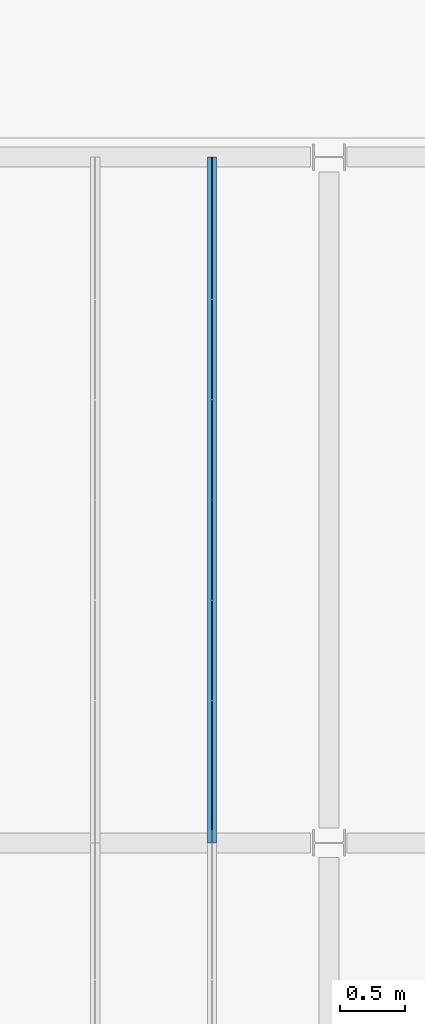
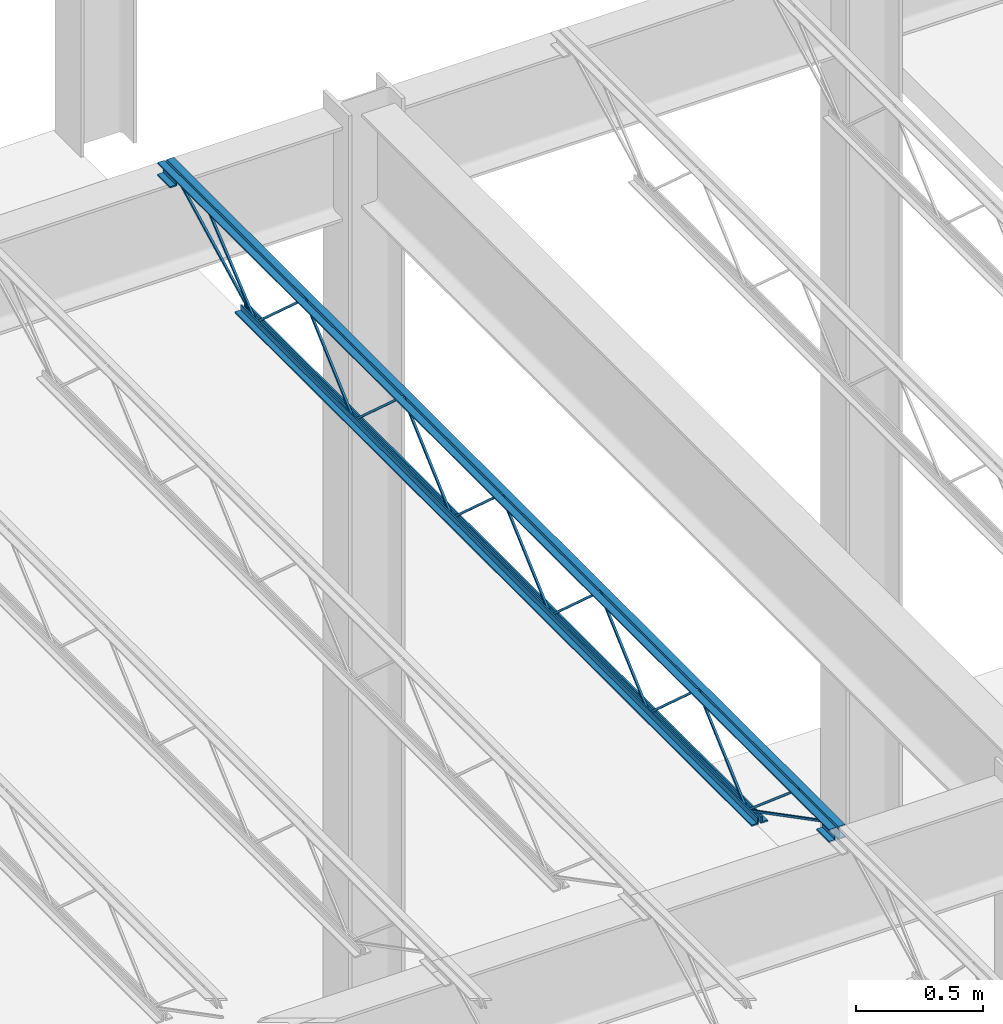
# One storey, part 80 of 119: 1 beam.
"""IFC2X3 building model written with IfcOpenShell, lengths in metres."""

from ifc_helpers import new_model, entity, si_unit, converted_unit, frame, origin, place, context, project, spatial, face_set, surface_model, element, save


model = new_model("IFC2X3")

# Units and contexts
model_context = context("Model", 3, precision=1e-09, world=origin())
plan_context = context("Plan", 3, precision=1e-09, world=origin())
ifc_project = project(units=[si_unit("LENGTHUNIT", "METRE"), si_unit("AREAUNIT", "SQUARE_METRE"), si_unit("VOLUMEUNIT", "CUBIC_METRE"), converted_unit("PLANEANGLEUNIT", "DEGREE", entity("IfcRatioMeasure", 0.01745329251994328), si_unit("PLANEANGLEUNIT", "RADIAN"), dimensions=[0, 0, 0, 0, 0, 0, 0]), si_unit("TIMEUNIT", "SECOND")], contexts=[model_context, plan_context])

# Site, building, storey
site_placement = place(None, origin())
site = spatial("IfcSite", under=ifc_project, at=site_placement, Name="Default", CompositionType="ELEMENT")
building_placement = place(site_placement, origin())
building = spatial("IfcBuilding", under=site, at=building_placement, CompositionType="ELEMENT")
storey_placement = place(building_placement, frame((0.0, 0.0, 4.570000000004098)))
storey = spatial("IfcBuildingStorey", under=building, at=storey_placement, Name="Second Floor", CompositionType="ELEMENT", Elevation=4.570000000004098)

# Beam
beam_placement = place(storey_placement, frame((-41.60246428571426, 44.78050000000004, 4.323999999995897), z_axis=(0.0, 0.0, 1.0), x_axis=(-1.0, 0.0, 0.0)))
element("IfcBeam", 1, at=beam_placement, inside=storey, Name="M_K-Series Bar Joist-Rod Web:14K1:14K1", ObjectType="M_K-Series Bar Joist-Rod Web:14K1", context=model_context, shape_type="SurfaceModel", body=[
    surface_model("IfcFaceBasedSurfaceModel", [(-0.0320000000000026, -2.266000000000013, 0.01110000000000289), (-0.0415000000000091, -2.266000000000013, 0.01110000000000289), (-0.0415000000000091, -2.266000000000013, 0.001600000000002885), (-0.0320000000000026, -2.266000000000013, 0.001600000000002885), (-0.04150000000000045, -2.264645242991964, 0.01110000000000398), (-0.0320000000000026, -2.264645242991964, 0.01110000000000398), (-0.04150000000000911, -2.26100475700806, 0.001600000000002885), (-0.04150000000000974, -1.878854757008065, 0.3449000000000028), (-0.04150000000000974, -1.876145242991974, 0.3449000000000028), (-0.04150000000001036, -1.493995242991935, 0.001600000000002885), (-0.04150000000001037, -1.489000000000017, 0.001600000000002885), (-0.04150000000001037, -1.489000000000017, 0.01110000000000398), (-0.04150000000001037, -1.490354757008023, 0.01110000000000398), (-0.04150000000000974, -1.872504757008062, 0.3544000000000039), (-0.04150000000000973, -1.882495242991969, 0.3544000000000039), (-0.03200000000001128, -2.26100475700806, 0.001600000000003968), (-0.03200000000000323, -1.878854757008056, 0.3449000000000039), (-0.03200000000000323, -1.876145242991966, 0.3449000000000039), (-0.03200000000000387, -1.493995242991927, 0.001600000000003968), (-0.03200000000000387, -1.489000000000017, 0.001600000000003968), (-0.03200000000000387, -1.489000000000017, 0.01110000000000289), (-0.03200000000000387, -1.490354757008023, 0.01110000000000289), (-0.03200000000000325, -1.872504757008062, 0.3544000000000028), (-0.03200000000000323, -1.882495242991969, 0.3544000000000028), (-0.03200000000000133, -3.04300000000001, 0.01110000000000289), (-0.04150000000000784, -3.04300000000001, 0.01110000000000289), (-0.04150000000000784, -3.04300000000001, 0.001600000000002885), (-0.03200000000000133, -3.04300000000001, 0.001600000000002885), (-0.04149999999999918, -3.041645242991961, 0.01110000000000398), (-0.03200000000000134, -3.041645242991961, 0.01110000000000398), (-0.04150000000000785, -3.038004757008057, 0.001600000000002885), (-0.04150000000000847, -2.655854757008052, 0.3449000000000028), (-0.04150000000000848, -2.653145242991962, 0.3449000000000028), (-0.0415000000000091, -2.270995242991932, 0.001600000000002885), (-0.0415000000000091, -2.266000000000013, 0.01110000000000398), (-0.0415000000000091, -2.26735475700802, 0.01110000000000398), (-0.04150000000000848, -2.649504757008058, 0.3544000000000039), (-0.04150000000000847, -2.659495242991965, 0.3544000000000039), (-0.03200000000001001, -3.038004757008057, 0.001600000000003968), (-0.03200000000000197, -2.655854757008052, 0.3449000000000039), (-0.03200000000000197, -2.653145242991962, 0.3449000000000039), (-0.0320000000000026, -2.270995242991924, 0.001600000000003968), (-0.0320000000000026, -2.266000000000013, 0.001600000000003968), (-0.0320000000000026, -2.26735475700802, 0.01110000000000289), (-0.03200000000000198, -2.649504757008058, 0.3544000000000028), (-0.03200000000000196, -2.659495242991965, 0.3544000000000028), (-0.03200000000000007, -3.820000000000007, 0.01110000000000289), (-0.04150000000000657, -3.820000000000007, 0.01110000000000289), (-0.04150000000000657, -3.820000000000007, 0.001600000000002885), (-0.03200000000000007, -3.820000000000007, 0.001600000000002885), (-0.04149999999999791, -3.818645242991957, 0.01110000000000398), (-0.03200000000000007, -3.818645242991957, 0.01110000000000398), (-0.04150000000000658, -3.815004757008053, 0.001600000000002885), (-0.0415000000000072, -3.432854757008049, 0.3449000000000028), (-0.04150000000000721, -3.430145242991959, 0.3449000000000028), (-0.04150000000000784, -3.04799524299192, 0.001600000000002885), (-0.04150000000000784, -3.043000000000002, 0.001600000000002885), (-0.04150000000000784, -3.04300000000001, 0.01110000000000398), (-0.04150000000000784, -3.044354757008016, 0.01110000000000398), (-0.04150000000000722, -3.426504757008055, 0.3544000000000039), (-0.0415000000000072, -3.436495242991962, 0.3544000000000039), (-0.03200000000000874, -3.815004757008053, 0.001600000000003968), (-0.0320000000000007, -3.432854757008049, 0.3449000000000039), (-0.0320000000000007, -3.430145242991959, 0.3449000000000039), (-0.03200000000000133, -3.04799524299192, 0.001600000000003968), (-0.03200000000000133, -3.04300000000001, 0.001600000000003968), (-0.03200000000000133, -3.043000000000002, 0.01110000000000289), (-0.03200000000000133, -3.044354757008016, 0.01110000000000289), (-0.03200000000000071, -3.426504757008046, 0.3544000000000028), (-0.0320000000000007, -3.436495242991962, 0.3544000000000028), (-0.03200000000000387, -1.489000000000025, 0.01109999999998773), (-0.04150000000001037, -1.489000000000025, 0.01109999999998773), (-0.04150000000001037, -1.489000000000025, 0.001599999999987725), (-0.03200000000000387, -1.489000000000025, 0.001599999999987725), (-0.04150000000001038, -1.487645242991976, 0.01109999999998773), (-0.03200000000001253, -1.487645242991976, 0.01109999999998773), (-0.04150000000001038, -1.484004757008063, 0.001599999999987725), (-0.04150000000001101, -1.101854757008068, 0.3448999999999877), (-0.04150000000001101, -1.099145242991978, 0.3448999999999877), (-0.04150000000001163, -0.7169952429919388, 0.001599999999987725), (-0.04150000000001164, -0.7120000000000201, 0.001599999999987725), (-0.04150000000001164, -0.7120000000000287, 0.01109999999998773), (-0.04150000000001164, -0.7133547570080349, 0.01109999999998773), (-0.04150000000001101, -1.095504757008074, 0.3543999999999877), (-0.04150000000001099, -1.10549524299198, 0.3543999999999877), (-0.03200000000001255, -1.484004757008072, 0.001599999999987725), (-0.03200000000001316, -1.101854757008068, 0.3448999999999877), (-0.03200000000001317, -1.099145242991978, 0.3448999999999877), (-0.03200000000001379, -0.7169952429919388, 0.001599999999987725), (-0.0320000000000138, -0.7120000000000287, 0.001599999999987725), (-0.03200000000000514, -0.7120000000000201, 0.01109999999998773), (-0.0320000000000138, -0.7133547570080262, 0.01109999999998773), (-0.03200000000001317, -1.095504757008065, 0.3543999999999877), (-0.03200000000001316, -1.10549524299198, 0.3543999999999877), (-0.0319999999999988, -4.597000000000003, 0.01110000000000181), (-0.0415000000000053, -4.597000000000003, 0.01110000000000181), (-0.0415000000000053, -4.597000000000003, 0.001600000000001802), (-0.0319999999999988, -4.597000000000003, 0.001600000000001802), (-0.04149999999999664, -4.595645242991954, 0.01110000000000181), (-0.0319999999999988, -4.595645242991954, 0.01110000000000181), (-0.04150000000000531, -4.592004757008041, 0.001600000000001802), (-0.04150000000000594, -4.209854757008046, 0.3449000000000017), (-0.04150000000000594, -4.207145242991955, 0.3449000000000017), (-0.04150000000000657, -3.824995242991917, 0.001600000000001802), (-0.04150000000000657, -3.819999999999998, 0.001600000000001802), (-0.04150000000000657, -3.820000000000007, 0.01110000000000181), (-0.04150000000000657, -3.821354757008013, 0.01110000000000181), (-0.04150000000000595, -4.203504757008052, 0.3544000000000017), (-0.04150000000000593, -4.213495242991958, 0.3544000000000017), (-0.03200000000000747, -4.592004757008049, 0.001600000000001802), (-0.03199999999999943, -4.209854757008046, 0.3449000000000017), (-0.03199999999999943, -4.207145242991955, 0.3449000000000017), (-0.03200000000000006, -3.824995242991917, 0.001600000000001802), (-0.03200000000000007, -3.820000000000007, 0.001600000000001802), (-0.03200000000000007, -3.819999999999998, 0.01110000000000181), (-0.03200000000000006, -3.821354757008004, 0.01110000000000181), (-0.03199999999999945, -4.203504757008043, 0.3544000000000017), (-0.03199999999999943, -4.21349524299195, 0.3544000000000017), (-0.0415000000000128, 0.0, 0.3559999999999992), (-0.07350000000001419, 0.0, 0.3559999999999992), (-0.07350000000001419, 0.0, 0.3494999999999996), (-0.04800000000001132, 0.0, 0.3494999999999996), (-0.04800000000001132, 0.0, 0.3239999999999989), (-0.0415000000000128, 0.0, 0.3239999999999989), (-0.03200000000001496, 0.0, 0.3559999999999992), (-0.03200000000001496, 0.0, 0.3239999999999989), (-0.02550000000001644, 0.0, 0.3239999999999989), (-0.02550000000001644, 0.0, 0.3494999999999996), (0.0, 0.0, 0.3494999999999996), (0.0, 0.0, 0.3559999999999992), (-0.04150000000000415, -5.309000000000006, 0.3559999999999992), (-0.07350000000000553, -5.309000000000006, 0.3559999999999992), (-0.07350000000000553, -5.309000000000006, 0.3494999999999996), (-0.04800000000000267, -5.309000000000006, 0.3494999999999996), (-0.04800000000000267, -5.309000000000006, 0.3239999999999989), (-0.04150000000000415, -5.309000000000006, 0.3239999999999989), (-0.0320000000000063, -5.309000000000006, 0.3559999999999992), (-0.0320000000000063, -5.309000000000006, 0.3239999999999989), (-0.02550000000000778, -5.309000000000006, 0.3239999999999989), (-0.02550000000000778, -5.309000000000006, 0.3494999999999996), (0.0, -5.309000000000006, 0.3494999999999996), (0.0, -5.309000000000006, 0.3559999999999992), (-0.0319999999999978, -5.20900000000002, 0.2924999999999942), (0.0, -5.20900000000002, 0.2924999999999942), (0.0, -5.20900000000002, 0.2989999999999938), (-0.02549999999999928, -5.20900000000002, 0.2989999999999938), (-0.02549999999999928, -5.20900000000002, 0.3239999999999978), (-0.0319999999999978, -5.20900000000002, 0.3239999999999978), (-0.07349999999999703, -5.20900000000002, 0.2924999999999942), (-0.04149999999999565, -5.20900000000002, 0.2924999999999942), (-0.04149999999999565, -5.20900000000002, 0.3239999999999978), (-0.04799999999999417, -5.20900000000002, 0.3239999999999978), (-0.04799999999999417, -5.20900000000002, 0.2989999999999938), (-0.07349999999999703, -5.20900000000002, 0.2989999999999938), (-0.03199999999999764, -5.309000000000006, 0.2924999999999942), (0.0, -5.309000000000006, 0.2924999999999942), (0.0, -5.309000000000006, 0.2989999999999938), (-0.02549999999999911, -5.309000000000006, 0.2989999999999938), (-0.02549999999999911, -5.309000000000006, 0.3239999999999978), (-0.03199999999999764, -5.309000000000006, 0.3239999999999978), (-0.07349999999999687, -5.309000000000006, 0.2924999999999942), (-0.04149999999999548, -5.309000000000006, 0.2924999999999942), (-0.04149999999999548, -5.309000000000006, 0.3239999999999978), (-0.04799999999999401, -5.309000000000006, 0.3239999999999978), (-0.04799999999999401, -5.309000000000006, 0.2989999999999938), (-0.07349999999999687, -5.309000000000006, 0.2989999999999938), (-0.04150000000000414, 0.0, 0.2924999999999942), (-0.04150000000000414, 0.0, 0.3239999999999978), (-0.04800000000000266, 0.0, 0.3239999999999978), (-0.04800000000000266, 0.0, 0.2989999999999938), (-0.07350000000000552, 0.0, 0.2989999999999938), (-0.07350000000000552, 0.0, 0.2924999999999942), (-0.0320000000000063, 0.0, 0.2924999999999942), (0.0, 0.0, 0.2924999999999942), (0.0, 0.0, 0.2989999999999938), (-0.02550000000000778, 0.0, 0.2989999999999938), (-0.02550000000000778, 0.0, 0.3239999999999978), (-0.0320000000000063, 0.0, 0.3239999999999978), (-0.04150000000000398, -0.1000000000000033, 0.2924999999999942), (-0.04150000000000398, -0.1000000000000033, 0.3239999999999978), (-0.0480000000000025, -0.1000000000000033, 0.3239999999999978), (-0.0480000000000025, -0.1000000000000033, 0.2989999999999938), (-0.07350000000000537, -0.1000000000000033, 0.2989999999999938), (-0.07350000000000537, -0.1000000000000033, 0.2924999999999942), (-0.03200000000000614, -0.1000000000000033, 0.2924999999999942), (0.0, -0.1000000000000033, 0.2924999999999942), (0.0, -0.1000000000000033, 0.2989999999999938), (-0.02550000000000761, -0.1000000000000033, 0.2989999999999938), (-0.02550000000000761, -0.1000000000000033, 0.3239999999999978), (-0.03200000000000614, -0.1000000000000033, 0.3239999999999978), (-0.0415000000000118, -0.6119999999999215, 0.0), (-0.0415000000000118, -0.6119999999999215, 0.03199999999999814), (-0.04800000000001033, -0.6119999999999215, 0.03199999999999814), (-0.04800000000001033, -0.6119999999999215, 0.006499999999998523), (-0.0735000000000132, -0.6119999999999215, 0.006499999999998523), (-0.0735000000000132, -0.6119999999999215, 0.0), (-0.03200000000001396, -0.6119999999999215, 0.0), (0.0, -0.6119999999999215, 0.0), (0.0, -0.6119999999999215, 0.006499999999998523), (-0.02550000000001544, -0.6119999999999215, 0.006499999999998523), (-0.02550000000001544, -0.6119999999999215, 0.03199999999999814), (-0.03200000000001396, -0.6119999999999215, 0.03199999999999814), (-0.04150000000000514, -4.696999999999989, 0.0), (-0.04150000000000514, -4.696999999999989, 0.03199999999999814), (-0.04800000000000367, -4.696999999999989, 0.03199999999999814), (-0.04800000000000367, -4.696999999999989, 0.006499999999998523), (-0.07350000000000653, -4.696999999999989, 0.006499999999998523), (-0.07350000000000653, -4.696999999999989, 0.0), (-0.0320000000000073, -4.696999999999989, 0.0), (0.0, -4.696999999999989, 0.0), (0.0, -4.696999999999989, 0.006499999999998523), (-0.02550000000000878, -4.696999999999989, 0.006499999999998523), (-0.02550000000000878, -4.696999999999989, 0.03199999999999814), (-0.0320000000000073, -4.696999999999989, 0.03199999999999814), (-0.03199999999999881, -4.594811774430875, 0.01056594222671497), (-0.0415000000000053, -4.594811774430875, 0.01056594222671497), (-0.0415000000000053, -4.599188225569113, 0.00213405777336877), (-0.03199999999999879, -4.599188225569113, 0.00213405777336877), (-0.0319999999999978, -5.207840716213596, 0.3287499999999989), (-0.03199999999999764, -5.308999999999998, 0.3287499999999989), (-0.03199999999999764, -5.308999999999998, 0.3192499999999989), (-0.03199999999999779, -5.210159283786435, 0.3192499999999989), (-0.04149999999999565, -5.210159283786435, 0.3192499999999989), (-0.0415000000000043, -5.207840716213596, 0.3287499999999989), (-0.04150000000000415, -5.308999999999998, 0.3287499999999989), (-0.04150000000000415, -5.309000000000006, 0.3192499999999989), (-0.03199999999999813, -5.005457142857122, 0.3417000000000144), (-0.04150000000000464, -5.005457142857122, 0.3417000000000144), (-0.04150000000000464, -5.005457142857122, 0.3322000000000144), (-0.03199999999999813, -5.005457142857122, 0.3322000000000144), (-0.041499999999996, -4.991034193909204, 0.3417000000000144), (-0.03199999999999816, -4.991034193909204, 0.3417000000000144), (-0.04150000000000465, -4.994480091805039, 0.3322000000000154), (-0.0415000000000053, -4.600045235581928, 0.002704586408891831), (-0.04150000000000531, -4.593954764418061, 0.009995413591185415), (-0.03200000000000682, -4.994480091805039, 0.3322000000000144), (-0.03199999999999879, -4.600045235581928, 0.002704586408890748), (-0.03199999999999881, -4.593954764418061, 0.009995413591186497), (-0.03200000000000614, -0.09781177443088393, 0.3197840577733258), (-0.03200000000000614, -0.1021882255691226, 0.328215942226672), (-0.04150000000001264, -0.1021882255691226, 0.328215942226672), (-0.04150000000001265, -0.09781177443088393, 0.3197840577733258), (-0.03200000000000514, -0.7098117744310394, 0.002134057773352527), (-0.03200000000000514, -0.714188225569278, 0.01056594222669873), (-0.04150000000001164, -0.714188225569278, 0.01056594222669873), (-0.04150000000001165, -0.7098117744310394, 0.002134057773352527), (-0.0320000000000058, -0.3059055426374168, 0.3460340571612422), (-0.0320000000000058, -0.3120658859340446, 0.35326594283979), (-0.04150000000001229, -0.3120658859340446, 0.3532659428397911), (-0.0415000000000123, -0.3059055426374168, 0.3460340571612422), (-0.03200000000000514, -0.7089198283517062, 0.002734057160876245), (-0.03200000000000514, -0.7150801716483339, 0.00996594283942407), (-0.04150000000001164, -0.7150801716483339, 0.00996594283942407), (-0.04150000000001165, -0.7089198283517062, 0.002734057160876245)], [face_set([[[0, 1, 2, 3]], [[1, 4, 5, 0]], [[2, 6, 7, 8, 9, 10, 11, 12, 13, 14, 4, 1]], [[3, 2, 6, 15]], [[0, 3, 15, 16, 17, 18, 19, 20, 21, 22, 23, 5]], [[4, 5, 23, 14]], [[15, 16, 7, 6]], [[14, 13, 22, 23]], [[16, 7, 8, 17]], [[13, 12, 21, 22]], [[17, 8, 9, 18]], [[20, 11, 10, 19]], [[12, 11, 20, 21]], [[18, 9, 10, 19]]]), face_set([[[24, 25, 26, 27]], [[25, 28, 29, 24]], [[26, 30, 31, 32, 33, 2, 34, 35, 36, 37, 28, 25]], [[27, 26, 30, 38]], [[24, 27, 38, 39, 40, 41, 42, 0, 43, 44, 45, 29]], [[28, 29, 45, 37]], [[38, 39, 31, 30]], [[37, 36, 44, 45]], [[39, 31, 32, 40]], [[36, 35, 43, 44]], [[40, 32, 33, 41]], [[0, 34, 2, 42]], [[35, 34, 0, 43]], [[41, 33, 2, 42]]]), face_set([[[46, 47, 48, 49]], [[47, 50, 51, 46]], [[48, 52, 53, 54, 55, 56, 57, 58, 59, 60, 50, 47]], [[49, 48, 52, 61]], [[46, 49, 61, 62, 63, 64, 65, 66, 67, 68, 69, 51]], [[50, 51, 69, 60]], [[61, 62, 53, 52]], [[60, 59, 68, 69]], [[62, 53, 54, 63]], [[59, 58, 67, 68]], [[63, 54, 55, 64]], [[66, 57, 56, 65]], [[58, 57, 66, 67]], [[64, 55, 56, 65]]]), face_set([[[70, 71, 72, 73]], [[71, 74, 75, 70]], [[72, 76, 77, 78, 79, 80, 81, 82, 83, 84, 74, 71]], [[73, 72, 76, 85]], [[70, 73, 85, 86, 87, 88, 89, 90, 91, 92, 93, 75]], [[74, 75, 93, 84]], [[85, 86, 77, 76]], [[84, 83, 92, 93]], [[86, 77, 78, 87]], [[83, 82, 91, 92]], [[87, 78, 79, 88]], [[90, 81, 80, 89]], [[82, 81, 90, 91]], [[88, 79, 80, 89]]]), face_set([[[94, 95, 96, 97]], [[95, 98, 99, 94]], [[96, 100, 101, 102, 103, 104, 105, 106, 107, 108, 98, 95]], [[97, 96, 100, 109]], [[94, 97, 109, 110, 111, 112, 113, 114, 115, 116, 117, 99]], [[98, 99, 117, 108]], [[109, 110, 101, 100]], [[108, 107, 116, 117]], [[110, 101, 102, 111]], [[107, 106, 115, 116]], [[111, 102, 103, 112]], [[114, 105, 104, 113]], [[106, 105, 114, 115]], [[112, 103, 104, 113]]]), face_set([[[118, 119, 120, 121, 122, 123]], [[124, 125, 126, 127, 128, 129]], [[130, 131, 132, 133, 134, 135]], [[136, 137, 138, 139, 140, 141]], [[123, 118, 130, 135]], [[122, 123, 135, 134]], [[121, 133, 134, 122]], [[120, 121, 133, 132]], [[119, 131, 132, 120]], [[118, 130, 131, 119]], [[129, 141, 136, 124]], [[128, 129, 141, 140]], [[127, 128, 140, 139]], [[126, 127, 139, 138]], [[125, 126, 138, 137]], [[124, 136, 137, 125]]]), face_set([[[142, 143, 144, 145, 146, 147]], [[148, 149, 150, 151, 152, 153]], [[154, 155, 156, 157, 158, 159]], [[160, 161, 162, 163, 164, 165]], [[147, 159, 154, 142]], [[146, 158, 159, 147]], [[145, 146, 158, 157]], [[144, 156, 157, 145]], [[143, 144, 156, 155]], [[142, 143, 155, 154]], [[153, 165, 160, 148]], [[152, 164, 165, 153]], [[151, 163, 164, 152]], [[150, 162, 163, 151]], [[149, 150, 162, 161]], [[148, 149, 161, 160]]]), face_set([[[166, 167, 168, 169, 170, 171]], [[172, 173, 174, 175, 176, 177]], [[178, 179, 180, 181, 182, 183]], [[184, 185, 186, 187, 188, 189]], [[171, 166, 178, 183]], [[170, 182, 183, 171]], [[169, 181, 182, 170]], [[168, 180, 181, 169]], [[167, 179, 180, 168]], [[166, 167, 179, 178]], [[177, 189, 184, 172]], [[176, 188, 189, 177]], [[175, 176, 188, 187]], [[174, 186, 187, 175]], [[173, 174, 186, 185]], [[172, 173, 185, 184]]]), face_set([[[190, 191, 192, 193, 194, 195]], [[196, 197, 198, 199, 200, 201]], [[202, 203, 204, 205, 206, 207]], [[208, 209, 210, 211, 212, 213]], [[195, 190, 202, 207]], [[194, 206, 207, 195]], [[193, 205, 206, 194]], [[192, 204, 205, 193]], [[191, 203, 204, 192]], [[190, 191, 203, 202]], [[201, 213, 208, 196]], [[200, 212, 213, 201]], [[199, 200, 212, 211]], [[198, 210, 211, 199]], [[197, 198, 210, 209]], [[196, 197, 209, 208]]]), face_set([[[214, 215, 216, 217]], [[217, 214, 218, 219, 220, 221]], [[216, 217, 221, 222]], [[215, 223, 224, 225, 222, 216]], [[214, 218, 223, 215]], [[219, 224, 225, 220]], [[222, 221, 220, 225]], [[218, 219, 224, 223]]]), face_set([[[226, 227, 228, 229]], [[227, 230, 231, 226]], [[228, 232, 233, 234, 230, 227]], [[229, 228, 232, 235]], [[226, 229, 235, 236, 237, 231]], [[237, 234, 233, 236]], [[230, 234, 237, 231]], [[235, 232, 233, 236]]]), face_set([[[238, 239, 240, 241]], [[242, 243, 244, 245]], [[241, 245, 242, 238]], [[240, 244, 245, 241]], [[239, 240, 244, 243]], [[238, 239, 243, 242]]]), face_set([[[246, 247, 248, 249]], [[250, 251, 252, 253]], [[249, 253, 250, 246]], [[248, 252, 253, 249]], [[247, 248, 252, 251]], [[246, 247, 251, 250]]])]),
])

save(model, "model.ifc")
